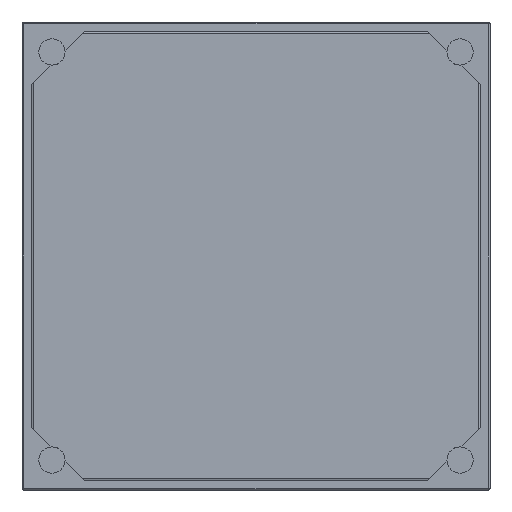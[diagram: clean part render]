
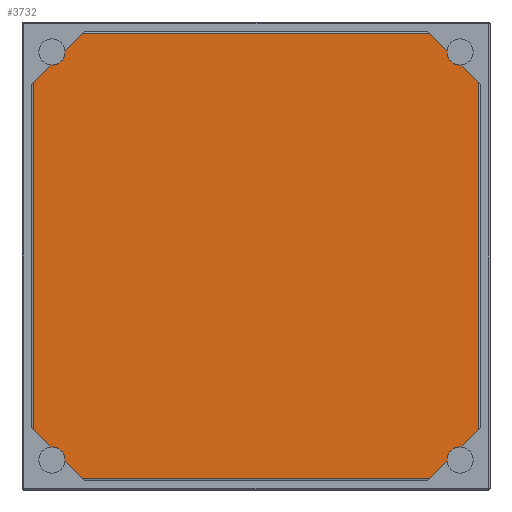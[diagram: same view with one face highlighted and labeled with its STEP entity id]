
A CAD part, front view. The second image highlights one B-rep face of the part: STEP entity #3732.
In plain terms, the highlighted planar face has unit normal (0, -1, 0).
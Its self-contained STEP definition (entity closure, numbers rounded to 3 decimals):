
#228=PLANE('',#4181);
#449=FACE_OUTER_BOUND('',#687,.T.);
#687=EDGE_LOOP('',(#3380,#3381,#3382,#3383));
#1033=LINE('',#6331,#1397);
#1035=LINE('',#6348,#1399);
#1039=LINE('',#6361,#1403);
#1041=LINE('',#6364,#1405);
#1397=VECTOR('',#5247,10.);
#1399=VECTOR('',#5267,10.);
#1403=VECTOR('',#5283,10.);
#1405=VECTOR('',#5287,10.);
#1800=VERTEX_POINT('',#6312);
#1806=VERTEX_POINT('',#6326);
#1810=VERTEX_POINT('',#6340);
#1815=VERTEX_POINT('',#6356);
#2312=EDGE_CURVE('',#1800,#1806,#1033,.T.);
#2320=EDGE_CURVE('',#1810,#1800,#1035,.T.);
#2327=EDGE_CURVE('',#1806,#1815,#1039,.T.);
#2329=EDGE_CURVE('',#1815,#1810,#1041,.T.);
#3380=ORIENTED_EDGE('',*,*,#2312,.F.);
#3381=ORIENTED_EDGE('',*,*,#2320,.F.);
#3382=ORIENTED_EDGE('',*,*,#2329,.F.);
#3383=ORIENTED_EDGE('',*,*,#2327,.F.);
#3732=ADVANCED_FACE('',(#449),#228,.F.);
#4181=AXIS2_PLACEMENT_3D('',#6387,#5318,#5319);
#5247=DIRECTION('',(0.,0.,-1.));
#5267=DIRECTION('',(1.,0.,0.));
#5283=DIRECTION('',(-1.,0.,0.));
#5287=DIRECTION('',(0.,0.,1.));
#5318=DIRECTION('center_axis',(0.,1.,0.));
#5319=DIRECTION('ref_axis',(0.,0.,1.));
#6312=CARTESIAN_POINT('',(238.,0.,238.));
#6326=CARTESIAN_POINT('',(238.,0.,-238.));
#6331=CARTESIAN_POINT('',(238.,0.,120.));
#6340=CARTESIAN_POINT('',(-238.,0.,238.));
#6348=CARTESIAN_POINT('',(-120.,0.,238.));
#6356=CARTESIAN_POINT('',(-238.,0.,-238.));
#6361=CARTESIAN_POINT('',(120.,0.,-238.));
#6364=CARTESIAN_POINT('',(-238.,0.,-120.));
#6387=CARTESIAN_POINT('Origin',(0.,0.,0.));
